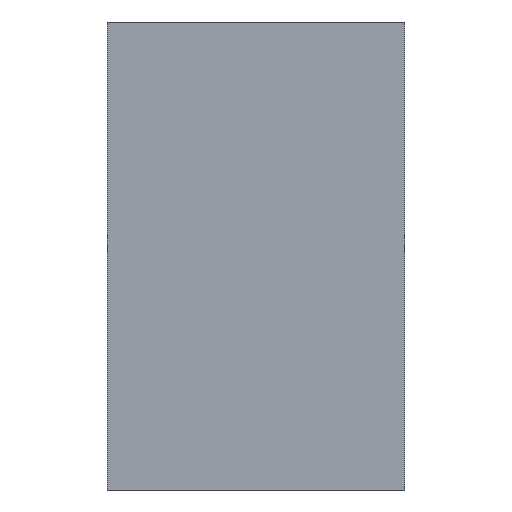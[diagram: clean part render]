
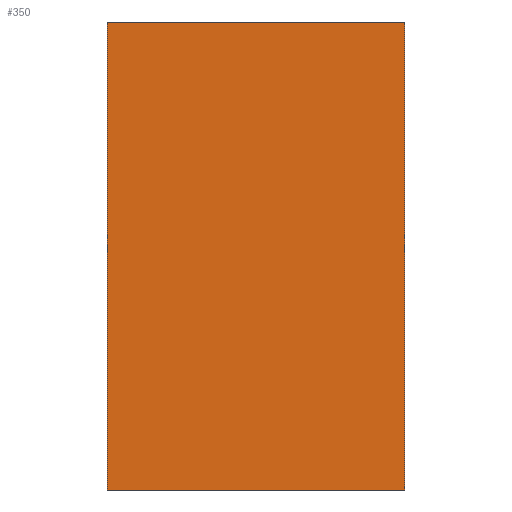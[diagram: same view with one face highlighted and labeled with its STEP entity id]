
A CAD part, left-side view. The second image highlights one B-rep face of the part: STEP entity #350.
In plain terms, the highlighted planar face has unit normal (-1, 0, 0).
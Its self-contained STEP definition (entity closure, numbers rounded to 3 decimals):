
#57=CARTESIAN_POINT('Line Origine',(-40.,14.,0.)) ;
#61=CARTESIAN_POINT('Vertex',(-40.,14.,-11.)) ;
#63=CARTESIAN_POINT('Vertex',(-40.,14.,11.)) ;
#320=CARTESIAN_POINT('Axis2P3D Location',(-40.,0.,-0.)) ;
#325=CARTESIAN_POINT('Line Origine',(-40.,7.,-11.)) ;
#329=CARTESIAN_POINT('Vertex',(-40.,0.,-11.)) ;
#332=CARTESIAN_POINT('Line Origine',(-40.,0.,0.)) ;
#336=CARTESIAN_POINT('Vertex',(-40.,0.,11.)) ;
#339=CARTESIAN_POINT('Line Origine',(-40.,7.,11.)) ;
#58=DIRECTION('Vector Direction',(0.,0.,1.)) ;
#321=DIRECTION('Axis2P3D Direction',(1.,0.,-0.)) ;
#322=DIRECTION('Axis2P3D XDirection',(-0.,0.,-1.)) ;
#326=DIRECTION('Vector Direction',(0.,1.,0.)) ;
#333=DIRECTION('Vector Direction',(0.,0.,-1.)) ;
#340=DIRECTION('Vector Direction',(0.,-1.,0.)) ;
#323=AXIS2_PLACEMENT_3D('Plane Axis2P3D',#320,#321,#322) ;
#345=ORIENTED_EDGE('',*,*,#65,.F.) ;
#346=ORIENTED_EDGE('',*,*,#331,.F.) ;
#347=ORIENTED_EDGE('',*,*,#338,.F.) ;
#348=ORIENTED_EDGE('',*,*,#343,.F.) ;
#59=VECTOR('Line Direction',#58,1.) ;
#327=VECTOR('Line Direction',#326,1.) ;
#334=VECTOR('Line Direction',#333,1.) ;
#341=VECTOR('Line Direction',#340,1.) ;
#350=ADVANCED_FACE('761-014080',(#349),#324,.F.) ;
#65=EDGE_CURVE('',#62,#64,#60,.T.) ;
#331=EDGE_CURVE('',#330,#62,#328,.T.) ;
#338=EDGE_CURVE('',#337,#330,#335,.T.) ;
#343=EDGE_CURVE('',#64,#337,#342,.T.) ;
#344=EDGE_LOOP('',(#345,#346,#347,#348)) ;
#349=FACE_OUTER_BOUND('',#344,.T.) ;
#60=LINE('Line',#57,#59) ;
#328=LINE('Line',#325,#327) ;
#335=LINE('Line',#332,#334) ;
#342=LINE('Line',#339,#341) ;
#324=PLANE('Plane',#323) ;
#62=VERTEX_POINT('',#61) ;
#64=VERTEX_POINT('',#63) ;
#330=VERTEX_POINT('',#329) ;
#337=VERTEX_POINT('',#336) ;
